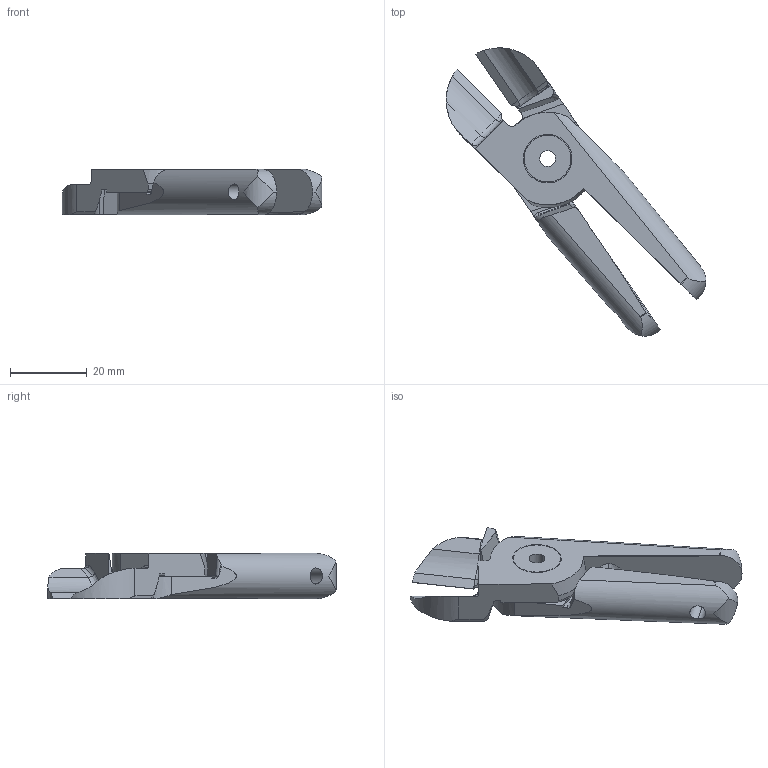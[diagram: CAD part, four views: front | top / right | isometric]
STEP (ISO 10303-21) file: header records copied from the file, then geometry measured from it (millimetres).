
FILE_DESCRIPTION((''),'2;1');
FILE_NAME('GPT-10-SI.stp','2006-09-26T13:14:31',(''),(''),'Mechanical Desktop 2005','Mechanical Desktop 2005',', , ');
FILE_SCHEMA(('CONFIG_CONTROL_DESIGN'));
Length unit declared in the file: inch
Products named in the file (5): GPT-10-SI; 10SIS; 10SIO; 9PRIVIT; 9PRIVITA
Assembly tree (4 placements, depth 3):
  GPT-10-SI
    10SIS
    10SIO
    9PRIVIT
      9PRIVITA
Bounding box: 67.53 x 74.96 x 11.86 mm (x, y, z)
Volume: 14152 mm3; surface area: 8523.3 mm2
Topology: 3 solids, 3 shells, 174 faces, 470 edges, 300 vertices
Faces by surface type: cylinder 84, plane 50, cone 24, bspline 12, torus 4
Entity records: 6752 total; most frequent: CARTESIAN_POINT 2296, ORIENTED_EDGE 932, DIRECTION 889, EDGE_CURVE 466, AXIS2_PLACEMENT_3D 341, VERTEX_POINT 300, VECTOR 207, LINE 207
